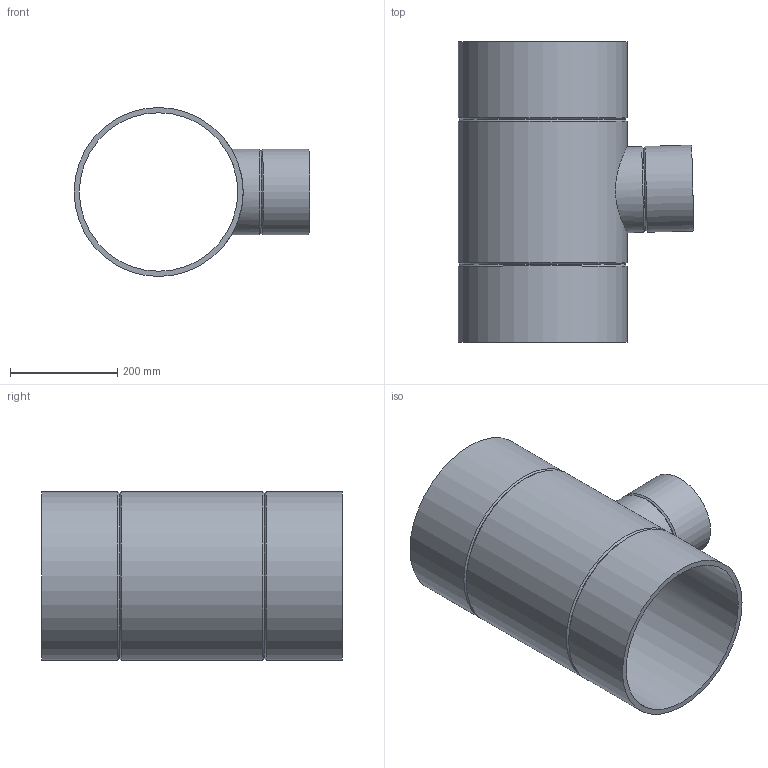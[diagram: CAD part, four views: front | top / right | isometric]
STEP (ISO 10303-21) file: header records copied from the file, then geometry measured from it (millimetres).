
FILE_DESCRIPTION(/* description */ (''),/* implementation_level */ '2;1');
FILE_NAME(/* name */ 'Z:\Geberit\Export\NewStep\372195.stp',/* time_stamp */ '2014-04-02T08:06:38+02:00',/* author */ ('nelson'),/* organization */ (''),/* preprocessor_version */ 'ST-DEVELOPER v15.2',/* originating_system */ 'Autodesk Inventor 2014',/* authorisation */ '');
FILE_SCHEMA (('AUTOMOTIVE_DESIGN { 1 0 10303 214 3 1 1 }'));
Length unit declared in the file: millimetre
Products named in the file (1): 372195
Bounding box: 439.5 x 560 x 315 mm (x, y, z)
Volume: 5457121.3 mm3; surface area: 1196169.8 mm2
Topology: 1 solids, 1 shells, 16 faces, 37 edges, 23 vertices
Faces by surface type: cylinder 7, cone 6, plane 3
Full cylindrical faces by diameter (mm): 147.6 x1, 160 x2, 295.4 x1, 315 x3
Entity records: 503 total; most frequent: CARTESIAN_POINT 181, DIRECTION 64, EDGE_LOOP 34, ORIENTED_EDGE 34, AXIS2_PLACEMENT_3D 32, FACE_BOUND 22, VERTEX_POINT 17, EDGE_CURVE 17
